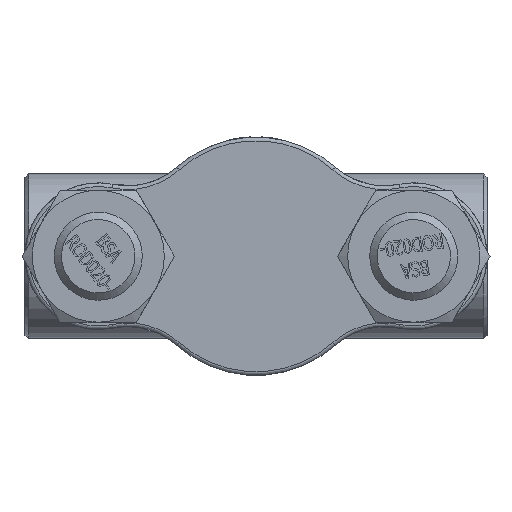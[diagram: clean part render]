
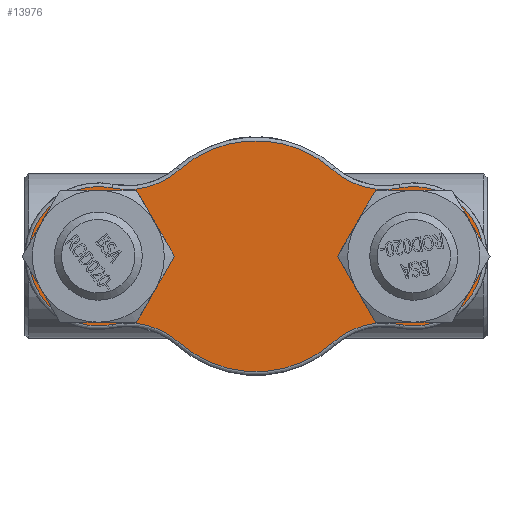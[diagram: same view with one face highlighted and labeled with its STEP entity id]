
A CAD part, front view. The second image highlights one B-rep face of the part: STEP entity #13976.
In plain terms, the highlighted planar face has unit normal (0, -1, 0) as drawn and (0, 0, -1) by its records, which use the part's own axes.
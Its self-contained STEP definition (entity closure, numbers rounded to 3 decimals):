
#3645=PLANE('',#14889);
#4009=FACE_BOUND('',#4928,.T.);
#4010=FACE_BOUND('',#4929,.T.);
#4103=FACE_OUTER_BOUND('',#4927,.T.);
#4927=EDGE_LOOP('',(#9627,#9628,#9629,#9630,#9631,#9632,#9633,#9634));
#4928=EDGE_LOOP('',(#9635));
#4929=EDGE_LOOP('',(#9636));
#5843=CIRCLE('',#14888,13.5);
#5844=CIRCLE('',#14890,19.);
#5845=CIRCLE('',#14891,21.);
#5846=CIRCLE('',#14892,31.5);
#5847=CIRCLE('',#14893,21.);
#5848=CIRCLE('',#14894,19.);
#5849=CIRCLE('',#14895,21.);
#5850=CIRCLE('',#14896,31.5);
#5851=CIRCLE('',#14897,21.);
#5852=CIRCLE('',#14898,13.5);
#6027=VERTEX_POINT('',#18094);
#6028=VERTEX_POINT('',#18097);
#6029=VERTEX_POINT('',#18098);
#6030=VERTEX_POINT('',#18100);
#6031=VERTEX_POINT('',#18102);
#6032=VERTEX_POINT('',#18104);
#6033=VERTEX_POINT('',#18106);
#6034=VERTEX_POINT('',#18108);
#6035=VERTEX_POINT('',#18110);
#6036=VERTEX_POINT('',#18113);
#7461=EDGE_CURVE('',#6027,#6027,#5843,.T.);
#7462=EDGE_CURVE('',#6028,#6029,#5844,.T.);
#7463=EDGE_CURVE('',#6030,#6028,#5845,.T.);
#7464=EDGE_CURVE('',#6031,#6030,#5846,.T.);
#7465=EDGE_CURVE('',#6032,#6031,#5847,.T.);
#7466=EDGE_CURVE('',#6033,#6032,#5848,.T.);
#7467=EDGE_CURVE('',#6034,#6033,#5849,.T.);
#7468=EDGE_CURVE('',#6035,#6034,#5850,.T.);
#7469=EDGE_CURVE('',#6029,#6035,#5851,.T.);
#7470=EDGE_CURVE('',#6036,#6036,#5852,.T.);
#9627=ORIENTED_EDGE('',*,*,#7462,.F.);
#9628=ORIENTED_EDGE('',*,*,#7463,.F.);
#9629=ORIENTED_EDGE('',*,*,#7464,.F.);
#9630=ORIENTED_EDGE('',*,*,#7465,.F.);
#9631=ORIENTED_EDGE('',*,*,#7466,.F.);
#9632=ORIENTED_EDGE('',*,*,#7467,.F.);
#9633=ORIENTED_EDGE('',*,*,#7468,.F.);
#9634=ORIENTED_EDGE('',*,*,#7469,.F.);
#9635=ORIENTED_EDGE('',*,*,#7470,.F.);
#9636=ORIENTED_EDGE('',*,*,#7461,.F.);
#13976=ADVANCED_FACE('',(#4103,#4009,#4010),#3645,.F.);
#14888=AXIS2_PLACEMENT_3D('',#18095,#15572,#15573);
#14889=AXIS2_PLACEMENT_3D('',#18096,#15574,#15575);
#14890=AXIS2_PLACEMENT_3D('',#18099,#15576,#15577);
#14891=AXIS2_PLACEMENT_3D('',#18101,#15578,#15579);
#14892=AXIS2_PLACEMENT_3D('',#18103,#15580,#15581);
#14893=AXIS2_PLACEMENT_3D('',#18105,#15582,#15583);
#14894=AXIS2_PLACEMENT_3D('',#18107,#15584,#15585);
#14895=AXIS2_PLACEMENT_3D('',#18109,#15586,#15587);
#14896=AXIS2_PLACEMENT_3D('',#18111,#15588,#15589);
#14897=AXIS2_PLACEMENT_3D('',#18112,#15590,#15591);
#14898=AXIS2_PLACEMENT_3D('',#18114,#15592,#15593);
#15572=DIRECTION('center_axis',(0.,0.,-1.));
#15573=DIRECTION('ref_axis',(1.,0.,0.));
#15574=DIRECTION('center_axis',(0.,0.,1.));
#15575=DIRECTION('ref_axis',(1.,0.,0.));
#15576=DIRECTION('center_axis',(0.,0.,1.));
#15577=DIRECTION('ref_axis',(-1.,0.,0.));
#15578=DIRECTION('center_axis',(0.,0.,-1.));
#15579=DIRECTION('ref_axis',(0.26,-0.966,0.));
#15580=DIRECTION('center_axis',(0.,0.,1.));
#15581=DIRECTION('ref_axis',(0.,1.,0.));
#15582=DIRECTION('center_axis',(0.,0.,-1.));
#15583=DIRECTION('ref_axis',(-0.26,-0.966,0.));
#15584=DIRECTION('center_axis',(0.,0.,1.));
#15585=DIRECTION('ref_axis',(1.,0.,0.));
#15586=DIRECTION('center_axis',(0.,0.,-1.));
#15587=DIRECTION('ref_axis',(-0.26,0.966,0.));
#15588=DIRECTION('center_axis',(0.,0.,1.));
#15589=DIRECTION('ref_axis',(0.,-1.,0.));
#15590=DIRECTION('center_axis',(0.,0.,-1.));
#15591=DIRECTION('ref_axis',(0.26,0.966,0.));
#15592=DIRECTION('center_axis',(0.,0.,-1.));
#15593=DIRECTION('ref_axis',(1.,0.,0.));
#18094=CARTESIAN_POINT('',(29.5,0.,0.));
#18095=CARTESIAN_POINT('Origin',(43.,0.,0.));
#18096=CARTESIAN_POINT('Origin',(0.,0.,0.));
#18097=CARTESIAN_POINT('',(-39.174,18.611,0.));
#18098=CARTESIAN_POINT('',(-39.174,-18.611,0.));
#18099=CARTESIAN_POINT('Origin',(-43.,0.,0.));
#18100=CARTESIAN_POINT('',(-20.967,23.508,0.));
#18101=CARTESIAN_POINT('Origin',(-34.945,39.181,0.));
#18102=CARTESIAN_POINT('',(20.967,23.508,0.));
#18103=CARTESIAN_POINT('Origin',(0.,0.,0.));
#18104=CARTESIAN_POINT('',(39.174,18.611,0.));
#18105=CARTESIAN_POINT('Origin',(34.945,39.181,0.));
#18106=CARTESIAN_POINT('',(39.174,-18.611,0.));
#18107=CARTESIAN_POINT('Origin',(43.,0.,0.));
#18108=CARTESIAN_POINT('',(20.967,-23.508,0.));
#18109=CARTESIAN_POINT('Origin',(34.945,-39.181,0.));
#18110=CARTESIAN_POINT('',(-20.967,-23.508,0.));
#18111=CARTESIAN_POINT('Origin',(0.,0.,0.));
#18112=CARTESIAN_POINT('Origin',(-34.945,-39.181,0.));
#18113=CARTESIAN_POINT('',(-56.5,0.,0.));
#18114=CARTESIAN_POINT('Origin',(-43.,0.,0.));
